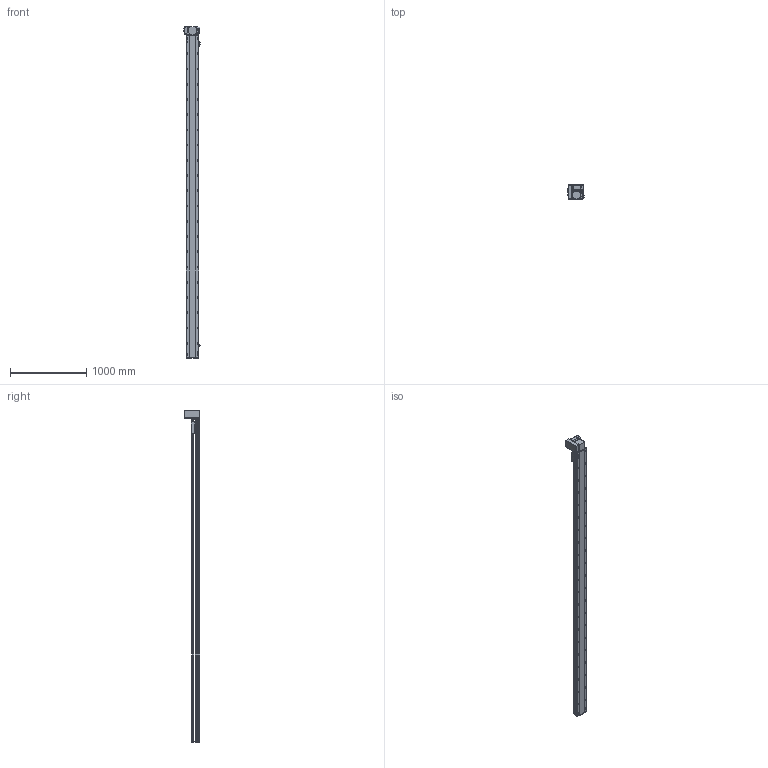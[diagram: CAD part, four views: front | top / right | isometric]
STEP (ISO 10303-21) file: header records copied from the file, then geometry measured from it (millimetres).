
FILE_DESCRIPTION (( 'STEP AP214' ), '1' );
FILE_NAME ('RTB17S-XX-3950-LW-M75-C4.STEP', '2025-12-12T01:25:35', ( '' ), ( '' ), 'SwSTEP 2.0', 'SolidWorks 2018', '' );
FILE_SCHEMA (( 'AUTOMOTIVE_DESIGN' ));
Length unit declared in the file: millimetre
Products named in the file (15): RTH13-BL-012覜茼え俋离^RTB17S-賑釱_RTB17S-XX-XX-LW-M75-C4; RTB17S-LW-々湍釱蚾饜-750W^RTB17S-XX-XX-LW-M75-C4; RTB17S-L-001-耜醱啣^RTB17S-XX-XX-LW-M75-C4; RTB17-R-011菁釱^RTB17S-XX-XX-LW-M75-C4; RTB22S-GY-018P^RTB17S-LW-々湍釱蚾饜-750W_RTB17S-XX-XX-LW-M75-C4; RTB22S-GY-005P^RTB17S-LW-々湍釱蚾饜-750W_RTB17S-XX-XX-LW-M75-C4; 750W萇儂^RTB17S-XX-XX-LW-M75-C4; RTB22S-GY-008-M75--萇儂啣^RTB17S-LW-々湍釱蚾饜-750W_RTB17S-XX-XX-LW-M75-C4; RTB17S-賑釱^RTB17S-XX-XX-LW-M75-C4; RTB22S-GY-017P^RTB17S-LW-々湍釱蚾饜-750W_RTB17S-XX-XX-LW-M75-C4; RTB17S-L-007奻裔^RTB17S-XX-XX-LW-M75-C4; EE672^RTB17S-XX-XX-LW-M75-C4; RTB17S-L-004-賑釱^RTB17S-賑釱_RTB17S-XX-XX-LW-M75-C4; RTB17S-L-014-T20-P75--々湍釱^RTB17S-LW-々湍釱蚾饜-750W_RTB17S-XX-XX-LW-M75-C4; RTB17S-XX-3950-LW-M75-C4
Assembly tree (17 placements, depth 3):
  RTB17S-XX-3950-LW-M75-C4
    RTB17-R-011菁釱^RTB17S-XX-XX-LW-M75-C4
    EE672^RTB17S-XX-XX-LW-M75-C4  x3
    RTB17S-L-001-耜醱啣^RTB17S-XX-XX-LW-M75-C4
    RTB17S-賑釱^RTB17S-XX-XX-LW-M75-C4
      RTB17S-L-004-賑釱^RTB17S-賑釱_RTB17S-XX-XX-LW-M75-C4
      RTH13-BL-012覜茼え俋离^RTB17S-賑釱_RTB17S-XX-XX-LW-M75-C4
    RTB17S-L-007奻裔^RTB17S-XX-XX-LW-M75-C4
    750W萇儂^RTB17S-XX-XX-LW-M75-C4
    RTB17S-LW-々湍釱蚾饜-750W^RTB17S-XX-XX-LW-M75-C4
      RTB17S-L-014-T20-P75--々湍釱^RTB17S-LW-々湍釱蚾饜-750W_RTB17S-XX-XX-LW-M75-C4
      RTB22S-GY-005P^RTB17S-LW-々湍釱蚾饜-750W_RTB17S-XX-XX-LW-M75-C4
      RTB22S-GY-017P^RTB17S-LW-々湍釱蚾饜-750W_RTB17S-XX-XX-LW-M75-C4  x2
      RTB22S-GY-008-M75--萇儂啣^RTB17S-LW-々湍釱蚾饜-750W_RTB17S-XX-XX-LW-M75-C4
      RTB22S-GY-018P^RTB17S-LW-々湍釱蚾饜-750W_RTB17S-XX-XX-LW-M75-C4
Bounding box: 210.4 x 201.5 x 4357.5 mm (x, y, z)
Volume: 30642057.7 mm3; surface area: 5694490.2 mm2
Topology: 17 solids, 17 shells, 2329 faces, 6592 edges, 4274 vertices
Faces by surface type: plane 1000, cylinder 913, bspline 294, cone 110, sphere 8, torus 4
Entity records: 69622 total; most frequent: CARTESIAN_POINT 20856, ORIENTED_EDGE 10028, DIRECTION 9212, EDGE_CURVE 5014, AXIS2_PLACEMENT_3D 3294, VERTEX_POINT 3278, VECTOR 2624, LINE 2624
